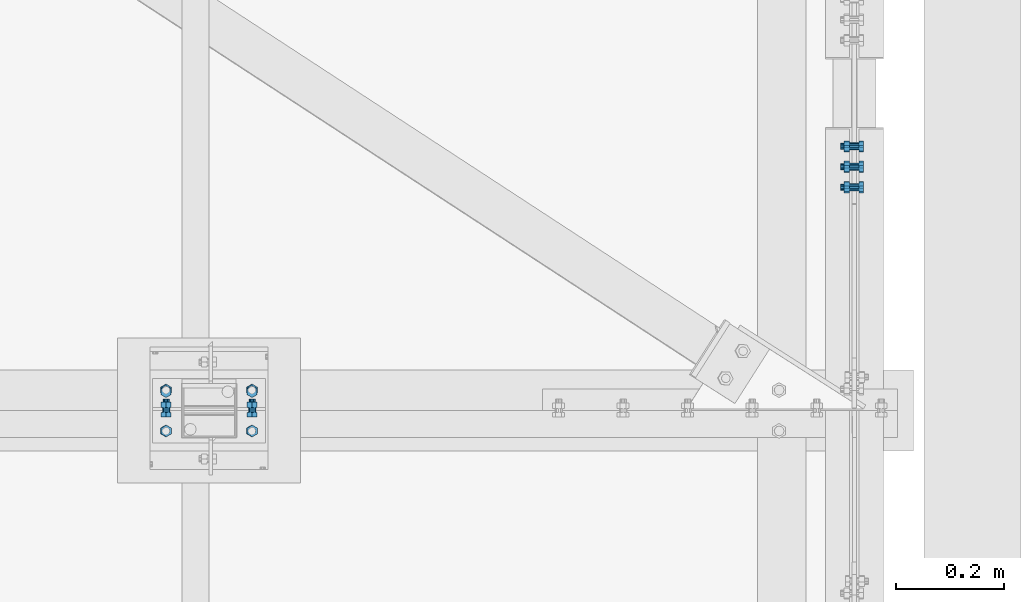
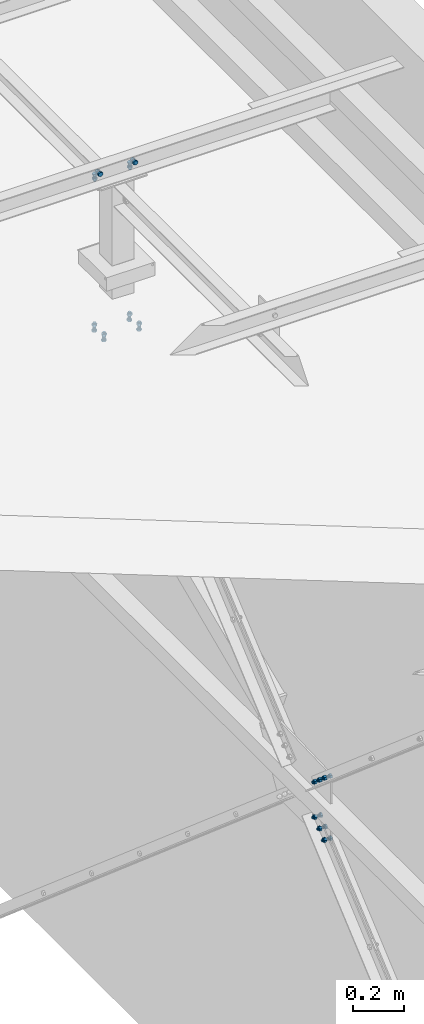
# One storey, part 346 of 3134: 5 mechanical fasteners, 4 elements without a shape of their own.
"""IFC2X3 building model written with IfcOpenShell, lengths in millimetres."""

from ifc_helpers import new_model, si_unit, frame, origin_with_axes, place, context, subcontext, project, spatial, faceted_brep, source, transform, mapped, material, type_object, element, aggregate, save


model = new_model("IFC2X3")

# Units and contexts
model_context = context("Model", 3, precision=1e-05, world=origin_with_axes())
body_context = subcontext(model_context, "Body", "Model", "MODEL_VIEW")
ifc_project = project(units=[si_unit("LENGTHUNIT", "METRE", prefix="MILLI"), si_unit("AREAUNIT", "SQUARE_METRE"), si_unit("VOLUMEUNIT", "CUBIC_METRE"), si_unit("MASSUNIT", "GRAM", prefix="KILO"), si_unit("TIMEUNIT", "SECOND"), si_unit("PLANEANGLEUNIT", "RADIAN"), si_unit("SOLIDANGLEUNIT", "STERADIAN"), si_unit("THERMODYNAMICTEMPERATUREUNIT", "DEGREE_CELSIUS"), si_unit("LUMINOUSINTENSITYUNIT", "LUMEN")], contexts=[model_context])

# Site, building, storey
site_placement = place(None, origin_with_axes())
site = spatial("IfcSite", under=ifc_project, at=site_placement, CompositionType="ELEMENT")
building_placement = place(site_placement, origin_with_axes())
building = spatial("IfcBuilding", under=site, at=building_placement, Name="Undefined", CompositionType="ELEMENT")
storey_placement = place(building_placement, origin_with_axes())
storey = spatial("IfcBuildingStorey", under=building, at=storey_placement, Name="Undefined", CompositionType="ELEMENT", Elevation=0.0)

# Assembly, mechanical fasteners
assembly_1_placement = place(storey_placement, origin_with_axes())
assembly_1 = element("IfcElementAssembly", 1, at=assembly_1_placement, inside=storey, AssemblyPlace="NOTDEFINED", PredefinedType="RIGID_FRAME")
ifc_material = material(Name="8.8")
mechanical_fastener_type = type_object("IfcMechanicalFastenerType", Name="Bolt assembly")
shared_shape_1 = source(origin_with_axes(), body_context, "Body", "Brep", [
    faceted_brep([(10.9696551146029, -14.0, 0.0), (5.48482755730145, -14.0, 9.5), (-5.48482755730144, -14.0, 9.5), (-10.9696551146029, -14.0, 1.34339530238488e-15), (-5.48482755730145, -14.0, -9.5), (5.48482755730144, -14.0, -9.50000000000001), (5.48482755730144, -6.0, -9.50000000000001), (-5.48482755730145, -6.0, -9.5), (-10.9696551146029, -6.0, 1.34339530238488e-15), (-5.48482755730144, -6.0, 9.5), (5.48482755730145, -6.0, 9.5), (10.9696551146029, -6.0, 0.0), (6.0, -6.0, 0.0), (5.19615242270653, -6.0, 3.00000000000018), (2.99999999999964, -6.0, 5.19615242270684), (-6.21801588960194e-13, -6.0, 6.0), (-3.00000000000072, -6.0, 5.19615242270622), (-5.19615242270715, -6.0, 2.9999999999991), (-6.0, -6.0, -1.24360317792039e-12), (-5.19615242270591, -6.0, -3.00000000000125), (-2.99999999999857, -6.0, -5.19615242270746), (1.85874342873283e-12, -6.0, -6.0), (3.00000000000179, -6.0, -5.1961524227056), (5.19615242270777, -6.0, -2.99999999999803), (5.19615242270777, 24.0, -2.99999999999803), (3.00000000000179, 24.0, -5.1961524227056), (1.85874342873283e-12, 24.0, -6.0), (-2.99999999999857, 24.0, -5.19615242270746), (-5.19615242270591, 24.0, -3.00000000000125), (-6.0, 24.0, -1.24360317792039e-12), (-5.19615242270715, 24.0, 2.9999999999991), (-3.00000000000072, 24.0, 5.19615242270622), (-6.21801588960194e-13, 24.0, 6.0), (2.99999999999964, 24.0, 5.19615242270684), (5.19615242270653, 24.0, 3.00000000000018), (6.0, 24.0, 0.0), (10.9696551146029, 6.00000000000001, 0.0), (5.48482755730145, 6.00000000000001, 9.5), (-5.48482755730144, 6.00000000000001, 9.5), (-10.9696551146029, 6.00000000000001, 1.34339530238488e-15), (-5.48482755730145, 6.00000000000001, -9.5), (5.48482755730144, 6.00000000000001, -9.50000000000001), (5.48482755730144, 16.0, -9.50000000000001), (-5.48482755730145, 16.0, -9.5), (-10.9696551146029, 16.0, 1.34339530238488e-15), (-5.48482755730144, 16.0, 9.5), (5.48482755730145, 16.0, 9.5), (10.9696551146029, 16.0, 0.0)], [[[0, 1, 2, 3, 4, 5]], [[6, 7, 8, 9, 10, 11]], [[0, 11, 10, 1]], [[1, 10, 9, 2]], [[2, 9, 8, 3]], [[3, 8, 7, 4]], [[4, 7, 6, 5]], [[5, 6, 11, 0]], [[12, 13, 14, 15, 16, 17, 18, 19, 20, 21, 22, 23]], [[24, 25, 26, 27, 28, 29, 30, 31, 32, 33, 34, 35]], [[12, 35, 34, 13]], [[13, 34, 33, 14]], [[14, 33, 32, 15]], [[15, 32, 31, 16]], [[16, 31, 30, 17]], [[17, 30, 29, 18]], [[18, 29, 28, 19]], [[19, 28, 27, 20]], [[20, 27, 26, 21]], [[21, 26, 25, 22]], [[22, 25, 24, 23]], [[23, 24, 35, 12]], [[36, 37, 38, 39, 40, 41]], [[42, 43, 44, 45, 46, 47]], [[36, 47, 46, 37]], [[37, 46, 45, 38]], [[38, 45, 44, 39]], [[39, 44, 43, 40]], [[40, 43, 42, 41]], [[41, 42, 47, 36]]]),
    faceted_brep([(7.0, -0.1, 0.0), (6.06217782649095, -0.1, 3.50000000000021), (3.49999999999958, -0.1, 6.06217782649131), (-7.25435187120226e-13, -0.1, 7.0), (-3.50000000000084, -0.1, 6.06217782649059), (-6.06217782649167, -0.1, 3.49999999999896), (-7.0, -0.1, -1.45087037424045e-12), (-6.06217782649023, -0.1, -3.50000000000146), (-3.49999999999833, -0.1, -6.06217782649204), (2.1685340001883e-12, -0.1, -7.0), (3.50000000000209, -0.1, -6.06217782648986), (6.0621778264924, -0.1, -3.4999999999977), (6.0621778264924, 6.00000000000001, -3.4999999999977), (3.50000000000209, 6.00000000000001, -6.06217782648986), (2.1685340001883e-12, 6.00000000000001, -7.0), (-3.49999999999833, 6.00000000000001, -6.06217782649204), (-6.06217782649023, 6.00000000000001, -3.50000000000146), (-7.0, 6.00000000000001, -1.45087037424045e-12), (-6.06217782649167, 6.00000000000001, 3.49999999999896), (-3.50000000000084, 6.00000000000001, 6.06217782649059), (-7.25435187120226e-13, 6.00000000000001, 7.0), (3.49999999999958, 6.00000000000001, 6.06217782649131), (6.06217782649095, 6.00000000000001, 3.50000000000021), (7.0, 6.00000000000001, 0.0), (7.0, -5.9, 0.0), (6.06217782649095, -5.9, 3.50000000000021), (3.49999999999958, -5.9, 6.06217782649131), (-7.25435187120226e-13, -5.9, 7.0), (-3.50000000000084, -5.9, 6.06217782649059), (-6.06217782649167, -5.9, 3.49999999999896), (-7.0, -5.9, -1.45087037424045e-12), (-6.06217782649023, -5.9, -3.50000000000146), (-3.49999999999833, -5.9, -6.06217782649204), (2.1685340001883e-12, -5.9, -7.0), (3.50000000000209, -5.9, -6.06217782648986), (6.0621778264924, -5.9, -3.4999999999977), (6.0621778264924, 0.0999999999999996, -3.4999999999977), (3.50000000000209, 0.0999999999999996, -6.06217782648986), (2.1685340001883e-12, 0.0999999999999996, -7.0), (-3.49999999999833, 0.0999999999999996, -6.06217782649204), (-6.06217782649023, 0.0999999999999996, -3.50000000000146), (-7.0, 0.0999999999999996, -1.45087037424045e-12), (-6.06217782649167, 0.0999999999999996, 3.49999999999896), (-3.50000000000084, 0.0999999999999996, 6.06217782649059), (-7.25435187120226e-13, 0.0999999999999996, 7.0), (3.49999999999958, 0.0999999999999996, 6.06217782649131), (6.06217782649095, 0.0999999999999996, 3.50000000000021), (7.0, 0.0999999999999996, 0.0)], [[[0, 1, 2, 3, 4, 5, 6, 7, 8, 9, 10, 11]], [[12, 13, 14, 15, 16, 17, 18, 19, 20, 21, 22, 23]], [[0, 23, 22, 1]], [[1, 22, 21, 2]], [[2, 21, 20, 3]], [[3, 20, 19, 4]], [[4, 19, 18, 5]], [[5, 18, 17, 6]], [[6, 17, 16, 7]], [[7, 16, 15, 8]], [[8, 15, 14, 9]], [[9, 14, 13, 10]], [[10, 13, 12, 11]], [[11, 12, 23, 0]], [[24, 25, 26, 27, 28, 29, 30, 31, 32, 33, 34, 35]], [[36, 37, 38, 39, 40, 41, 42, 43, 44, 45, 46, 47]], [[24, 47, 46, 25]], [[25, 46, 45, 26]], [[26, 45, 44, 27]], [[27, 44, 43, 28]], [[28, 43, 42, 29]], [[29, 42, 41, 30]], [[30, 41, 40, 31]], [[31, 40, 39, 32]], [[32, 39, 38, 33]], [[33, 38, 37, 34]], [[34, 37, 36, 35]], [[35, 36, 47, 24]]]),
])
mechanical_fastener_1_placement = place(assembly_1_placement, frame((78025.0, 10045.0, 5850.0), z_axis=(1.0, 0.0, 0.0), x_axis=(0.0, -1.0, 0.0)))
mechanical_fastener_1 = element("IfcMechanicalFastener", 2, at=mechanical_fastener_1_placement, type_object=mechanical_fastener_type, material=ifc_material, Name="Bolt assembly", NominalDiameter=12.0, NominalLength=30.0, context=body_context, shape_type="MappedRepresentation", body=[
    mapped(shared_shape_1, transform((0.0, -5.32963895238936e-10, -79.9999999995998))),
    mapped(shared_shape_1, transform((0.0, 5.3114490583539e-10, 79.9999999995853))),
])
shared_shape_2 = source(origin_with_axes(), body_context, "Body", "Brep", [
    faceted_brep([(10.9696551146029, -12.0, 0.0), (5.48482755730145, -12.0, 9.5), (-5.48482755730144, -12.0, 9.5), (-10.9696551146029, -12.0, 1.34339530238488e-15), (-5.48482755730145, -12.0, -9.5), (5.48482755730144, -12.0, -9.50000000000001), (5.48482755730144, -4.0, -9.50000000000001), (-5.48482755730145, -4.0, -9.5), (-10.9696551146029, -4.0, 1.34339530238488e-15), (-5.48482755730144, -4.0, 9.5), (5.48482755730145, -4.0, 9.5), (10.9696551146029, -4.0, 0.0), (6.0, -4.0, 0.0), (5.19615242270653, -4.0, 3.00000000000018), (2.99999999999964, -4.0, 5.19615242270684), (-6.21801588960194e-13, -4.0, 6.0), (-3.00000000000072, -4.0, 5.19615242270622), (-5.19615242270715, -4.0, 2.9999999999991), (-6.0, -4.0, -1.24360317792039e-12), (-5.19615242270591, -4.0, -3.00000000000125), (-2.99999999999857, -4.0, -5.19615242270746), (1.85874342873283e-12, -4.0, -6.0), (3.00000000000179, -4.0, -5.1961524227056), (5.19615242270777, -4.0, -2.99999999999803), (5.19615242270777, 21.0, -2.99999999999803), (3.00000000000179, 21.0, -5.1961524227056), (1.85874342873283e-12, 21.0, -6.0), (-2.99999999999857, 21.0, -5.19615242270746), (-5.19615242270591, 21.0, -3.00000000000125), (-6.0, 21.0, -1.24360317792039e-12), (-5.19615242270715, 21.0, 2.9999999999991), (-3.00000000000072, 21.0, 5.19615242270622), (-6.21801588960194e-13, 21.0, 6.0), (2.99999999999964, 21.0, 5.19615242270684), (5.19615242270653, 21.0, 3.00000000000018), (6.0, 21.0, 0.0), (10.9696551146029, 6.00000000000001, 0.0), (5.48482755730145, 6.00000000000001, 9.5), (-5.48482755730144, 6.00000000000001, 9.5), (-10.9696551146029, 6.00000000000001, 1.34339530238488e-15), (-5.48482755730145, 6.00000000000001, -9.5), (5.48482755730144, 6.00000000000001, -9.50000000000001), (5.48482755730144, 16.0, -9.50000000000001), (-5.48482755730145, 16.0, -9.5), (-10.9696551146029, 16.0, 1.34339530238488e-15), (-5.48482755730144, 16.0, 9.5), (5.48482755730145, 16.0, 9.5), (10.9696551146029, 16.0, 0.0)], [[[0, 1, 2, 3, 4, 5]], [[6, 7, 8, 9, 10, 11]], [[0, 11, 10, 1]], [[1, 10, 9, 2]], [[2, 9, 8, 3]], [[3, 8, 7, 4]], [[4, 7, 6, 5]], [[5, 6, 11, 0]], [[12, 13, 14, 15, 16, 17, 18, 19, 20, 21, 22, 23]], [[24, 25, 26, 27, 28, 29, 30, 31, 32, 33, 34, 35]], [[12, 35, 34, 13]], [[13, 34, 33, 14]], [[14, 33, 32, 15]], [[15, 32, 31, 16]], [[16, 31, 30, 17]], [[17, 30, 29, 18]], [[18, 29, 28, 19]], [[19, 28, 27, 20]], [[20, 27, 26, 21]], [[21, 26, 25, 22]], [[22, 25, 24, 23]], [[23, 24, 35, 12]], [[36, 37, 38, 39, 40, 41]], [[42, 43, 44, 45, 46, 47]], [[36, 47, 46, 37]], [[37, 46, 45, 38]], [[38, 45, 44, 39]], [[39, 44, 43, 40]], [[40, 43, 42, 41]], [[41, 42, 47, 36]]]),
    faceted_brep([(7.0, -3.9, 0.0), (6.06217782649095, -3.9, 3.50000000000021), (3.49999999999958, -3.9, 6.06217782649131), (-7.25435187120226e-13, -3.9, 7.0), (-3.50000000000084, -3.9, 6.06217782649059), (-6.06217782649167, -3.9, 3.49999999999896), (-7.0, -3.9, -1.45087037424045e-12), (-6.06217782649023, -3.9, -3.50000000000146), (-3.49999999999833, -3.9, -6.06217782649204), (2.1685340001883e-12, -3.9, -7.0), (3.50000000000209, -3.9, -6.06217782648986), (6.0621778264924, -3.9, -3.4999999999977), (6.0621778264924, 0.0999999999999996, -3.4999999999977), (3.50000000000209, 0.0999999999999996, -6.06217782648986), (2.1685340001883e-12, 0.0999999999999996, -7.0), (-3.49999999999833, 0.0999999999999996, -6.06217782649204), (-6.06217782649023, 0.0999999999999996, -3.50000000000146), (-7.0, 0.0999999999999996, -1.45087037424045e-12), (-6.06217782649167, 0.0999999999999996, 3.49999999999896), (-3.50000000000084, 0.0999999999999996, 6.06217782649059), (-7.25435187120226e-13, 0.0999999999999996, 7.0), (3.49999999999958, 0.0999999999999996, 6.06217782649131), (6.06217782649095, 0.0999999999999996, 3.50000000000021), (7.0, 0.0999999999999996, 0.0), (7.0, -0.1, 0.0), (6.06217782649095, -0.1, 3.50000000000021), (3.49999999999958, -0.1, 6.06217782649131), (-7.25435187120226e-13, -0.1, 7.0), (-3.50000000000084, -0.1, 6.06217782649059), (-6.06217782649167, -0.1, 3.49999999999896), (-7.0, -0.1, -1.45087037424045e-12), (-6.06217782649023, -0.1, -3.50000000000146), (-3.49999999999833, -0.1, -6.06217782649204), (2.1685340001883e-12, -0.1, -7.0), (3.50000000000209, -0.1, -6.06217782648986), (6.0621778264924, -0.1, -3.4999999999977), (6.0621778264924, 6.00000000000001, -3.4999999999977), (3.50000000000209, 6.00000000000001, -6.06217782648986), (2.1685340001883e-12, 6.00000000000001, -7.0), (-3.49999999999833, 6.00000000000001, -6.06217782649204), (-6.06217782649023, 6.00000000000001, -3.50000000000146), (-7.0, 6.00000000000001, -1.45087037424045e-12), (-6.06217782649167, 6.00000000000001, 3.49999999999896), (-3.50000000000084, 6.00000000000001, 6.06217782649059), (-7.25435187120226e-13, 6.00000000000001, 7.0), (3.49999999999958, 6.00000000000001, 6.06217782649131), (6.06217782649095, 6.00000000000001, 3.50000000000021), (7.0, 6.00000000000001, 0.0)], [[[0, 1, 2, 3, 4, 5, 6, 7, 8, 9, 10, 11]], [[12, 13, 14, 15, 16, 17, 18, 19, 20, 21, 22, 23]], [[0, 23, 22, 1]], [[1, 22, 21, 2]], [[2, 21, 20, 3]], [[3, 20, 19, 4]], [[4, 19, 18, 5]], [[5, 18, 17, 6]], [[6, 17, 16, 7]], [[7, 16, 15, 8]], [[8, 15, 14, 9]], [[9, 14, 13, 10]], [[10, 13, 12, 11]], [[11, 12, 23, 0]], [[24, 25, 26, 27, 28, 29, 30, 31, 32, 33, 34, 35]], [[36, 37, 38, 39, 40, 41, 42, 43, 44, 45, 46, 47]], [[24, 47, 46, 25]], [[25, 46, 45, 26]], [[26, 45, 44, 27]], [[27, 44, 43, 28]], [[28, 43, 42, 29]], [[29, 42, 41, 30]], [[30, 41, 40, 31]], [[31, 40, 39, 32]], [[32, 39, 38, 33]], [[33, 38, 37, 34]], [[34, 37, 36, 35]], [[35, 36, 47, 24]]]),
])
mechanical_fastener_2_placement = place(assembly_1_placement, frame((78025.0, 10010.0, 5885.0), z_axis=(1.0, 0.0, 0.0), x_axis=(0.0, 0.0, -1.0)))
mechanical_fastener_2 = element("IfcMechanicalFastener", 3, at=mechanical_fastener_2_placement, type_object=mechanical_fastener_type, material=ifc_material, Name="Bolt assembly", NominalDiameter=12.0, NominalLength=25.0, context=body_context, shape_type="MappedRepresentation", body=[
    mapped(shared_shape_2, transform((0.0, -5.32963895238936e-10, -79.9999999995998))),
    mapped(shared_shape_2, transform((0.0, 5.3114490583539e-10, 79.9999999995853))),
])
aggregate(assembly_1, [mechanical_fastener_1, mechanical_fastener_2])

# Assembly, mechanical fastener
assembly_2_placement = place(storey_placement, origin_with_axes())
assembly_2 = element("IfcElementAssembly", 4, at=assembly_2_placement, inside=storey, AssemblyPlace="NOTDEFINED", PredefinedType="RIGID_FRAME")
shared_shape_3 = source(origin_with_axes(), body_context, "Body", "Brep", [
    faceted_brep([(10.9696551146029, -17.0000000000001, 0.0), (5.48482755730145, -17.0000000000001, 9.5), (-5.48482755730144, -17.0000000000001, 9.5), (-10.9696551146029, -17.0000000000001, 1.34339530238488e-15), (-5.48482755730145, -17.0000000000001, -9.5), (5.48482755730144, -17.0000000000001, -9.50000000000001), (5.48482755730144, -9.00000000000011, -9.50000000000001), (-5.48482755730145, -9.00000000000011, -9.5), (-10.9696551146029, -9.00000000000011, 1.34339530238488e-15), (-5.48482755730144, -9.00000000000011, 9.5), (5.48482755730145, -9.00000000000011, 9.5), (10.9696551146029, -9.00000000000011, 0.0), (6.0, -9.00000000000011, 0.0), (5.19615242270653, -9.00000000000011, 3.00000000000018), (2.99999999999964, -9.00000000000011, 5.19615242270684), (-6.21801588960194e-13, -9.00000000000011, 6.0), (-3.00000000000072, -9.00000000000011, 5.19615242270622), (-5.19615242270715, -9.00000000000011, 2.9999999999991), (-6.0, -9.00000000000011, -1.24360317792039e-12), (-5.19615242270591, -9.00000000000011, -3.00000000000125), (-2.99999999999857, -9.00000000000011, -5.19615242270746), (1.85874342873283e-12, -9.00000000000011, -6.0), (3.00000000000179, -9.00000000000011, -5.1961524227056), (5.19615242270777, -9.00000000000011, -2.99999999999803), (5.19615242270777, 26.0, -2.99999999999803), (3.00000000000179, 26.0, -5.1961524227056), (1.85874342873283e-12, 26.0, -6.0), (-2.99999999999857, 26.0, -5.19615242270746), (-5.19615242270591, 26.0, -3.00000000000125), (-6.0, 26.0, -1.24360317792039e-12), (-5.19615242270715, 26.0, 2.9999999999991), (-3.00000000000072, 26.0, 5.19615242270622), (-6.21801588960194e-13, 26.0, 6.0), (2.99999999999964, 26.0, 5.19615242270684), (5.19615242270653, 26.0, 3.00000000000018), (6.0, 26.0, 0.0), (10.9696551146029, 8.94079310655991, 0.0), (5.48482755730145, 8.94079310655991, 9.5), (-5.48482755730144, 8.94079310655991, 9.5), (-10.9696551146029, 8.94079310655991, 1.34339530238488e-15), (-5.48482755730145, 8.94079310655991, -9.5), (5.48482755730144, 8.94079310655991, -9.50000000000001), (5.48482755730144, 18.9407931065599, -9.50000000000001), (-5.48482755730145, 18.9407931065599, -9.5), (-10.9696551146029, 18.9407931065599, 1.34339530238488e-15), (-5.48482755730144, 18.9407931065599, 9.5), (5.48482755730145, 18.9407931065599, 9.5), (10.9696551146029, 18.9407931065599, 0.0)], [[[0, 1, 2, 3, 4, 5]], [[6, 7, 8, 9, 10, 11]], [[0, 11, 10, 1]], [[1, 10, 9, 2]], [[2, 9, 8, 3]], [[3, 8, 7, 4]], [[4, 7, 6, 5]], [[5, 6, 11, 0]], [[12, 13, 14, 15, 16, 17, 18, 19, 20, 21, 22, 23]], [[24, 25, 26, 27, 28, 29, 30, 31, 32, 33, 34, 35]], [[12, 35, 34, 13]], [[13, 34, 33, 14]], [[14, 33, 32, 15]], [[15, 32, 31, 16]], [[16, 31, 30, 17]], [[17, 30, 29, 18]], [[18, 29, 28, 19]], [[19, 28, 27, 20]], [[20, 27, 26, 21]], [[21, 26, 25, 22]], [[22, 25, 24, 23]], [[23, 24, 35, 12]], [[36, 37, 38, 39, 40, 41]], [[42, 43, 44, 45, 46, 47]], [[36, 47, 46, 37]], [[37, 46, 45, 38]], [[38, 45, 44, 39]], [[39, 44, 43, 40]], [[40, 43, 42, 41]], [[41, 42, 47, 36]]]),
    faceted_brep([(7.0, -8.90000000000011, 0.0), (6.06217782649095, -8.90000000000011, 3.50000000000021), (3.49999999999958, -8.90000000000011, 6.06217782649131), (-7.25435187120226e-13, -8.90000000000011, 7.0), (-3.50000000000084, -8.90000000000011, 6.06217782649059), (-6.06217782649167, -8.90000000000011, 3.49999999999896), (-7.0, -8.90000000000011, -1.45087037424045e-12), (-6.06217782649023, -8.90000000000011, -3.50000000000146), (-3.49999999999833, -8.90000000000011, -6.06217782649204), (2.1685340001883e-12, -8.90000000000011, -7.0), (3.50000000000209, -8.90000000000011, -6.06217782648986), (6.0621778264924, -8.90000000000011, -3.4999999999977), (6.0621778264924, -3.9, -3.4999999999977), (3.50000000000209, -3.9, -6.06217782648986), (2.1685340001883e-12, -3.9, -7.0), (-3.49999999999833, -3.9, -6.06217782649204), (-6.06217782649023, -3.9, -3.50000000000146), (-7.0, -3.9, -1.45087037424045e-12), (-6.06217782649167, -3.9, 3.49999999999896), (-3.50000000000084, -3.9, 6.06217782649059), (-7.25435187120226e-13, -3.9, 7.0), (3.49999999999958, -3.9, 6.06217782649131), (6.06217782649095, -3.9, 3.50000000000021), (7.0, -3.9, 0.0), (7.0, 3.84079294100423, 0.0), (6.06217782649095, 3.84079294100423, 3.50000000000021), (3.49999999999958, 3.84079294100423, 6.06217782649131), (-7.25435187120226e-13, 3.84079294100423, 7.0), (-3.50000000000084, 3.84079294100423, 6.06217782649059), (-6.06217782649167, 3.84079294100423, 3.49999999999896), (-7.0, 3.84079294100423, -1.45087037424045e-12), (-6.06217782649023, 3.84079294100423, -3.50000000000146), (-3.49999999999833, 3.84079294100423, -6.06217782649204), (2.1685340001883e-12, 3.84079294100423, -7.0), (3.50000000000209, 3.84079294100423, -6.06217782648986), (6.0621778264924, 3.84079294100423, -3.4999999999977), (6.0621778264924, 8.94079310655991, -3.4999999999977), (3.50000000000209, 8.94079310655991, -6.06217782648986), (2.1685340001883e-12, 8.94079310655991, -7.0), (-3.49999999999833, 8.94079310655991, -6.06217782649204), (-6.06217782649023, 8.94079310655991, -3.50000000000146), (-7.0, 8.94079310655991, -1.45087037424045e-12), (-6.06217782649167, 8.94079310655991, 3.49999999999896), (-3.50000000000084, 8.94079310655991, 6.06217782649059), (-7.25435187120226e-13, 8.94079310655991, 7.0), (3.49999999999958, 8.94079310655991, 6.06217782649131), (6.06217782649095, 8.94079310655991, 3.50000000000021), (7.0, 8.94079310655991, 0.0), (7.0, -4.00000018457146, 0.0), (6.06217782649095, -4.00000018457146, 3.50000000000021), (3.49999999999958, -4.00000018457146, 6.06217782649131), (-7.25435187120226e-13, -4.00000018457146, 7.0), (-3.50000000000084, -4.00000018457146, 6.06217782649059), (-6.06217782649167, -4.00000018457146, 3.49999999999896), (-7.0, -4.00000018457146, -1.45087037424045e-12), (-6.06217782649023, -4.00000018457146, -3.50000000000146), (-3.49999999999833, -4.00000018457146, -6.06217782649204), (2.1685340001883e-12, -4.00000018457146, -7.0), (3.50000000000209, -4.00000018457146, -6.06217782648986), (6.0621778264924, -4.00000018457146, -3.4999999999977), (6.0621778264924, 4.00000000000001, -3.4999999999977), (3.50000000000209, 4.00000000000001, -6.06217782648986), (2.1685340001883e-12, 4.00000000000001, -7.0), (-3.49999999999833, 4.00000000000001, -6.06217782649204), (-6.06217782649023, 4.00000000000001, -3.50000000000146), (-7.0, 4.00000000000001, -1.45087037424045e-12), (-6.06217782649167, 4.00000000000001, 3.49999999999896), (-3.50000000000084, 4.00000000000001, 6.06217782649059), (-7.25435187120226e-13, 4.00000000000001, 7.0), (3.49999999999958, 4.00000000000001, 6.06217782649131), (6.06217782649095, 4.00000000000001, 3.50000000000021), (7.0, 4.00000000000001, 0.0)], [[[0, 1, 2, 3, 4, 5, 6, 7, 8, 9, 10, 11]], [[12, 13, 14, 15, 16, 17, 18, 19, 20, 21, 22, 23]], [[0, 23, 22, 1]], [[1, 22, 21, 2]], [[2, 21, 20, 3]], [[3, 20, 19, 4]], [[4, 19, 18, 5]], [[5, 18, 17, 6]], [[6, 17, 16, 7]], [[7, 16, 15, 8]], [[8, 15, 14, 9]], [[9, 14, 13, 10]], [[10, 13, 12, 11]], [[11, 12, 23, 0]], [[24, 25, 26, 27, 28, 29, 30, 31, 32, 33, 34, 35]], [[36, 37, 38, 39, 40, 41, 42, 43, 44, 45, 46, 47]], [[24, 47, 46, 25]], [[25, 46, 45, 26]], [[26, 45, 44, 27]], [[27, 44, 43, 28]], [[28, 43, 42, 29]], [[29, 42, 41, 30]], [[30, 41, 40, 31]], [[31, 40, 39, 32]], [[32, 39, 38, 33]], [[33, 38, 37, 34]], [[34, 37, 36, 35]], [[35, 36, 47, 24]], [[48, 49, 50, 51, 52, 53, 54, 55, 56, 57, 58, 59]], [[60, 61, 62, 63, 64, 65, 66, 67, 68, 69, 70, 71]], [[48, 71, 70, 49]], [[49, 70, 69, 50]], [[50, 69, 68, 51]], [[51, 68, 67, 52]], [[52, 67, 66, 53]], [[53, 66, 65, 54]], [[54, 65, 64, 55]], [[55, 64, 63, 56]], [[56, 63, 62, 57]], [[57, 62, 61, 58]], [[58, 61, 60, 59]], [[59, 60, 71, 48]]]),
])
mechanical_fastener_3_placement = place(assembly_2_placement, frame((79225.0, 10425.3209388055, 2276.48500860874), z_axis=(0.0, 0.650537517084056, 0.759474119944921), x_axis=(0.0, 0.759474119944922, -0.650537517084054)))
mechanical_fastener_3 = element("IfcMechanicalFastener", 5, at=mechanical_fastener_3_placement, type_object=mechanical_fastener_type, material=ifc_material, Name="Bolt assembly", NominalDiameter=12.0, NominalLength=35.0, context=body_context, shape_type="MappedRepresentation", body=[
    mapped(shared_shape_3, transform((0.0, 0.0, 0.0))),
    mapped(shared_shape_3, transform((50.000000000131, -1.38243194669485e-10, 0.0))),
    mapped(shared_shape_3, transform((100.0, 0.0, 0.0))),
])
aggregate(assembly_2, [mechanical_fastener_3])

assembly_3_placement = place(storey_placement, origin_with_axes())
assembly_3 = element("IfcElementAssembly", 6, at=assembly_3_placement, inside=storey, AssemblyPlace="NOTDEFINED", PredefinedType="RIGID_FRAME")
mechanical_fastener_4_placement = place(assembly_3_placement, frame((79225.0, 10425.3209388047, 1977.23747739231), z_axis=(0.0, -0.650537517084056, 0.759474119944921), x_axis=(0.0, 0.759474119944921, 0.650537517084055)))
mechanical_fastener_4 = element("IfcMechanicalFastener", 7, at=mechanical_fastener_4_placement, type_object=mechanical_fastener_type, material=ifc_material, Name="Bolt assembly", NominalDiameter=12.0, NominalLength=35.0, context=body_context, shape_type="MappedRepresentation", body=[
    mapped(shared_shape_3, transform((0.0, 0.0, 0.0))),
    mapped(shared_shape_3, transform((50.000000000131, -1.38243194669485e-10, 0.0))),
    mapped(shared_shape_3, transform((100.0, 0.0, 0.0))),
])
aggregate(assembly_3, [mechanical_fastener_4])

assembly_4_placement = place(storey_placement, origin_with_axes())
assembly_4 = element("IfcElementAssembly", 8, at=assembly_4_placement, inside=storey, Name="300", AssemblyPlace="NOTDEFINED", PredefinedType="RIGID_FRAME")
shared_shape_4 = source(origin_with_axes(), body_context, "Body", "Brep", [
    faceted_brep([(10.9696551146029, -10.2004593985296, 0.0), (5.48482755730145, -10.2004593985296, 9.5), (-5.48482755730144, -10.2004593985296, 9.5), (-10.9696551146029, -10.2004593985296, 1.34339530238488e-15), (-5.48482755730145, -10.2004593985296, -9.5), (5.48482755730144, -10.2004593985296, -9.50000000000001), (5.48482755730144, -2.20045939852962, -9.50000000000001), (-5.48482755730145, -2.20045939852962, -9.5), (-10.9696551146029, -2.20045939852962, 1.34339530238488e-15), (-5.48482755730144, -2.20045939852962, 9.5), (5.48482755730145, -2.20045939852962, 9.5), (10.9696551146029, -2.20045939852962, 0.0), (6.0, -2.20045939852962, 0.0), (5.19615242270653, -2.20045939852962, 3.00000000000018), (2.99999999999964, -2.20045939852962, 5.19615242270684), (-6.21801588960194e-13, -2.20045939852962, 6.0), (-3.00000000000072, -2.20045939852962, 5.19615242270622), (-5.19615242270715, -2.20045939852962, 2.9999999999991), (-6.0, -2.20045939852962, -1.24360317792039e-12), (-5.19615242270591, -2.20045939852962, -3.00000000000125), (-2.99999999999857, -2.20045939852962, -5.19615242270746), (1.85874342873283e-12, -2.20045939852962, -6.0), (3.00000000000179, -2.20045939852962, -5.1961524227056), (5.19615242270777, -2.20045939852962, -2.99999999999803), (5.19615242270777, 32.7995406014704, -2.99999999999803), (3.00000000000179, 32.7995406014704, -5.1961524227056), (1.85874342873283e-12, 32.7995406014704, -6.0), (-2.99999999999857, 32.7995406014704, -5.19615242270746), (-5.19615242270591, 32.7995406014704, -3.00000000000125), (-6.0, 32.7995406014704, -1.24360317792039e-12), (-5.19615242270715, 32.7995406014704, 2.9999999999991), (-3.00000000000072, 32.7995406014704, 5.19615242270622), (-6.21801588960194e-13, 32.7995406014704, 6.0), (2.99999999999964, 32.7995406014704, 5.19615242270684), (5.19615242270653, 32.7995406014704, 3.00000000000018), (6.0, 32.7995406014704, 0.0), (10.9696551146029, 17.0008987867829, 0.0), (5.48482755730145, 17.0008987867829, 9.5), (-5.48482755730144, 17.0008987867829, 9.5), (-10.9696551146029, 17.0008987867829, 1.34339530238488e-15), (-5.48482755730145, 17.0008987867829, -9.5), (5.48482755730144, 17.0008987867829, -9.50000000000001), (5.48482755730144, 27.0008987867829, -9.50000000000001), (-5.48482755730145, 27.0008987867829, -9.5), (-10.9696551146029, 27.0008987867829, 1.34339530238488e-15), (-5.48482755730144, 27.0008987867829, 9.5), (5.48482755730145, 27.0008987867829, 9.5), (10.9696551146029, 27.0008987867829, 0.0)], [[[0, 1, 2, 3, 4, 5]], [[6, 7, 8, 9, 10, 11]], [[0, 11, 10, 1]], [[1, 10, 9, 2]], [[2, 9, 8, 3]], [[3, 8, 7, 4]], [[4, 7, 6, 5]], [[5, 6, 11, 0]], [[12, 13, 14, 15, 16, 17, 18, 19, 20, 21, 22, 23]], [[24, 25, 26, 27, 28, 29, 30, 31, 32, 33, 34, 35]], [[12, 35, 34, 13]], [[13, 34, 33, 14]], [[14, 33, 32, 15]], [[15, 32, 31, 16]], [[16, 31, 30, 17]], [[17, 30, 29, 18]], [[18, 29, 28, 19]], [[19, 28, 27, 20]], [[20, 27, 26, 21]], [[21, 26, 25, 22]], [[22, 25, 24, 23]], [[23, 24, 35, 12]], [[36, 37, 38, 39, 40, 41]], [[42, 43, 44, 45, 46, 47]], [[36, 47, 46, 37]], [[37, 46, 45, 38]], [[38, 45, 44, 39]], [[39, 44, 43, 40]], [[40, 43, 42, 41]], [[41, 42, 47, 36]]]),
    faceted_brep([(7.0, 8.90089878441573, 0.0), (6.06217782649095, 8.90089878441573, 3.50000000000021), (3.49999999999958, 8.90089878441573, 6.06217782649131), (-7.25435187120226e-13, 8.90089878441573, 7.0), (-3.50000000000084, 8.90089878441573, 6.06217782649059), (-6.06217782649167, 8.90089878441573, 3.49999999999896), (-7.0, 8.90089878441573, -1.45087037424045e-12), (-6.06217782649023, 8.90089878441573, -3.50000000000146), (-3.49999999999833, 8.90089878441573, -6.06217782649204), (2.1685340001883e-12, 8.90089878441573, -7.0), (3.50000000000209, 8.90089878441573, -6.06217782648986), (6.0621778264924, 8.90089878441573, -3.4999999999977), (6.0621778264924, 17.0008987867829, -3.4999999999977), (3.50000000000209, 17.0008987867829, -6.06217782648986), (2.1685340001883e-12, 17.0008987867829, -7.0), (-3.49999999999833, 17.0008987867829, -6.06217782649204), (-6.06217782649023, 17.0008987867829, -3.50000000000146), (-7.0, 17.0008987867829, -1.45087037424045e-12), (-6.06217782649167, 17.0008987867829, 3.49999999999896), (-3.50000000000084, 17.0008987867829, 6.06217782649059), (-7.25435187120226e-13, 17.0008987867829, 7.0), (3.49999999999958, 17.0008987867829, 6.06217782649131), (6.06217782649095, 17.0008987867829, 3.50000000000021), (7.0, 17.0008987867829, 0.0), (7.0, -2.10045939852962, 0.0), (6.06217782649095, -2.10045939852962, 3.50000000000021), (3.49999999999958, -2.10045939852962, 6.06217782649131), (-7.25435187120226e-13, -2.10045939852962, 7.0), (-3.50000000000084, -2.10045939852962, 6.06217782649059), (-6.06217782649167, -2.10045939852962, 3.49999999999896), (-7.0, -2.10045939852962, -1.45087037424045e-12), (-6.06217782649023, -2.10045939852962, -3.50000000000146), (-3.49999999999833, -2.10045939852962, -6.06217782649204), (2.1685340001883e-12, -2.10045939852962, -7.0), (3.50000000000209, -2.10045939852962, -6.06217782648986), (6.0621778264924, -2.10045939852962, -3.4999999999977), (6.0621778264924, 7.09954041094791, -3.4999999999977), (3.50000000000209, 7.09954041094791, -6.06217782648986), (2.1685340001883e-12, 7.09954041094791, -7.0), (-3.49999999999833, 7.09954041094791, -6.06217782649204), (-6.06217782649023, 7.09954041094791, -3.50000000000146), (-7.0, 7.09954041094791, -1.45087037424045e-12), (-6.06217782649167, 7.09954041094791, 3.49999999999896), (-3.50000000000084, 7.09954041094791, 6.06217782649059), (-7.25435187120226e-13, 7.09954041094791, 7.0), (3.49999999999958, 7.09954041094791, 6.06217782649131), (6.06217782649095, 7.09954041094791, 3.50000000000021), (7.0, 7.09954041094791, 0.0)], [[[0, 1, 2, 3, 4, 5, 6, 7, 8, 9, 10, 11]], [[12, 13, 14, 15, 16, 17, 18, 19, 20, 21, 22, 23]], [[0, 23, 22, 1]], [[1, 22, 21, 2]], [[2, 21, 20, 3]], [[3, 20, 19, 4]], [[4, 19, 18, 5]], [[5, 18, 17, 6]], [[6, 17, 16, 7]], [[7, 16, 15, 8]], [[8, 15, 14, 9]], [[9, 14, 13, 10]], [[10, 13, 12, 11]], [[11, 12, 23, 0]], [[24, 25, 26, 27, 28, 29, 30, 31, 32, 33, 34, 35]], [[36, 37, 38, 39, 40, 41, 42, 43, 44, 45, 46, 47]], [[24, 47, 46, 25]], [[25, 46, 45, 26]], [[26, 45, 44, 27]], [[27, 44, 43, 28]], [[28, 43, 42, 29]], [[29, 42, 41, 30]], [[30, 41, 40, 31]], [[31, 40, 39, 32]], [[32, 39, 38, 33]], [[33, 38, 37, 34]], [[34, 37, 36, 35]], [[35, 36, 47, 24]]]),
])
mechanical_fastener_5_placement = place(assembly_4_placement, frame((78024.5351187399, 10048.0, 5108.2872055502), z_axis=(-0.99951962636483, 0.0, 0.0309922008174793), x_axis=(0.0, -1.0, 0.0)))
mechanical_fastener_5 = element("IfcMechanicalFastener", 9, at=mechanical_fastener_5_placement, type_object=mechanical_fastener_type, material=ifc_material, Name="Bolt assembly", NominalDiameter=12.0, NominalLength=35.0, context=body_context, shape_type="MappedRepresentation", body=[
    mapped(shared_shape_4, transform((0.0, -5.32963895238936e-10, -79.9999999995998))),
    mapped(shared_shape_4, transform((76.0, -5.32963895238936e-10, -79.9999999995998))),
    mapped(shared_shape_4, transform((0.0, 5.3114490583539e-10, 79.9999999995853))),
    mapped(shared_shape_4, transform((76.0, 5.3114490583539e-10, 79.9999999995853))),
])
aggregate(assembly_4, [mechanical_fastener_5])

save(model, "model.ifc")
